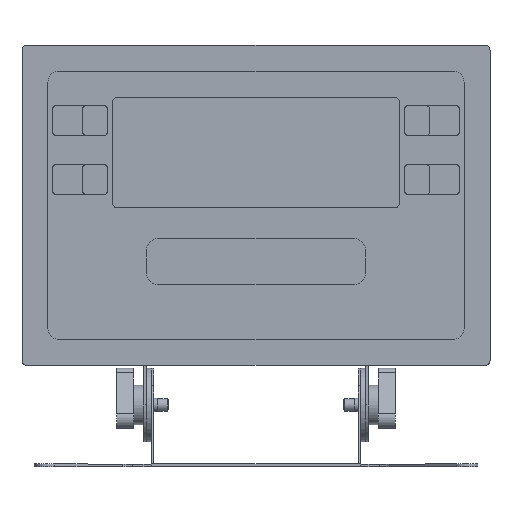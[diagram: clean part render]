
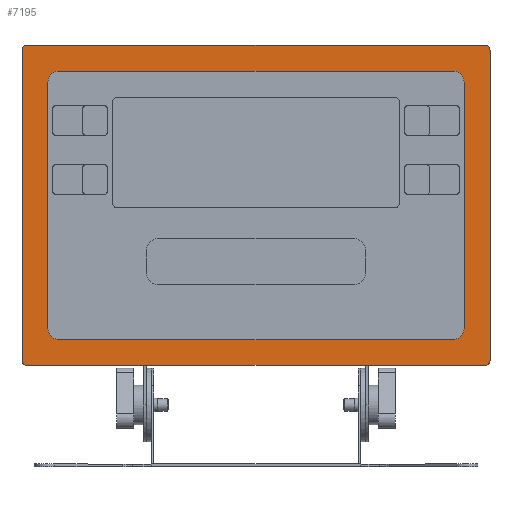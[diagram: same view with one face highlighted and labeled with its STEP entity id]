
A CAD part, top view. The second image highlights one B-rep face of the part: STEP entity #7195.
In plain terms, the highlighted planar face has unit normal (0, 0, 1).
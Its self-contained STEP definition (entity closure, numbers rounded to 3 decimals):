
#446=LINE('',#10347,#926);
#449=LINE('',#10355,#929);
#452=LINE('',#10363,#932);
#455=LINE('',#10371,#935);
#457=LINE('',#10380,#937);
#458=LINE('',#10384,#938);
#459=LINE('',#10388,#939);
#460=LINE('',#10392,#940);
#926=VECTOR('',#8809,1000.);
#929=VECTOR('',#8818,1000.);
#932=VECTOR('',#8827,1000.);
#935=VECTOR('',#8836,1000.);
#937=VECTOR('',#8846,1000.);
#938=VECTOR('',#8849,1000.);
#939=VECTOR('',#8852,1000.);
#940=VECTOR('',#8855,1000.);
#1998=ORIENTED_EDGE('',*,*,#2981,.F.);
#1999=ORIENTED_EDGE('',*,*,#2979,.F.);
#2000=ORIENTED_EDGE('',*,*,#2977,.F.);
#2001=ORIENTED_EDGE('',*,*,#2975,.F.);
#2002=ORIENTED_EDGE('',*,*,#2973,.F.);
#2003=ORIENTED_EDGE('',*,*,#2971,.F.);
#2004=ORIENTED_EDGE('',*,*,#2969,.F.);
#2005=ORIENTED_EDGE('',*,*,#2967,.F.);
#2006=ORIENTED_EDGE('',*,*,#2982,.T.);
#2007=ORIENTED_EDGE('',*,*,#2983,.T.);
#2008=ORIENTED_EDGE('',*,*,#2984,.T.);
#2009=ORIENTED_EDGE('',*,*,#2985,.T.);
#2010=ORIENTED_EDGE('',*,*,#2986,.T.);
#2011=ORIENTED_EDGE('',*,*,#2987,.T.);
#2012=ORIENTED_EDGE('',*,*,#2988,.T.);
#2013=ORIENTED_EDGE('',*,*,#2989,.T.);
#2967=EDGE_CURVE('',#3544,#3545,#446,.T.);
#2969=EDGE_CURVE('',#3545,#3546,#3854,.T.);
#2971=EDGE_CURVE('',#3546,#3547,#449,.T.);
#2973=EDGE_CURVE('',#3547,#3548,#3855,.T.);
#2975=EDGE_CURVE('',#3548,#3549,#452,.T.);
#2977=EDGE_CURVE('',#3549,#3550,#3856,.T.);
#2979=EDGE_CURVE('',#3550,#3551,#455,.T.);
#2981=EDGE_CURVE('',#3551,#3544,#3857,.T.);
#2982=EDGE_CURVE('',#3552,#3553,#3858,.T.);
#2983=EDGE_CURVE('',#3553,#3554,#457,.T.);
#2984=EDGE_CURVE('',#3554,#3555,#3859,.T.);
#2985=EDGE_CURVE('',#3555,#3556,#458,.T.);
#2986=EDGE_CURVE('',#3556,#3557,#3860,.T.);
#2987=EDGE_CURVE('',#3557,#3558,#459,.T.);
#2988=EDGE_CURVE('',#3558,#3559,#3861,.T.);
#2989=EDGE_CURVE('',#3559,#3552,#460,.T.);
#3544=VERTEX_POINT('',#10346);
#3545=VERTEX_POINT('',#10348);
#3546=VERTEX_POINT('',#10352);
#3547=VERTEX_POINT('',#10356);
#3548=VERTEX_POINT('',#10360);
#3549=VERTEX_POINT('',#10364);
#3550=VERTEX_POINT('',#10368);
#3551=VERTEX_POINT('',#10372);
#3552=VERTEX_POINT('',#10378);
#3553=VERTEX_POINT('',#10379);
#3554=VERTEX_POINT('',#10381);
#3555=VERTEX_POINT('',#10383);
#3556=VERTEX_POINT('',#10385);
#3557=VERTEX_POINT('',#10387);
#3558=VERTEX_POINT('',#10389);
#3559=VERTEX_POINT('',#10391);
#3854=CIRCLE('',#7654,4.5);
#3855=CIRCLE('',#7657,4.5);
#3856=CIRCLE('',#7660,4.5);
#3857=CIRCLE('',#7663,4.5);
#3858=CIRCLE('',#7665,2.);
#3859=CIRCLE('',#7666,2.);
#3860=CIRCLE('',#7667,2.);
#3861=CIRCLE('',#7668,2.);
#4161=EDGE_LOOP('',(#1998,#1999,#2000,#2001,#2002,#2003,#2004,#2005));
#4162=EDGE_LOOP('',(#2006,#2007,#2008,#2009,#2010,#2011,#2012,#2013));
#4561=FACE_BOUND('',#4161,.T.);
#4562=FACE_BOUND('',#4162,.T.);
#4826=PLANE('',#7664);
#7195=ADVANCED_FACE('',(#4561,#4562),#4826,.T.);
#7654=AXIS2_PLACEMENT_3D('',#10351,#8813,#8814);
#7657=AXIS2_PLACEMENT_3D('',#10359,#8822,#8823);
#7660=AXIS2_PLACEMENT_3D('',#10367,#8831,#8832);
#7663=AXIS2_PLACEMENT_3D('',#10375,#8840,#8841);
#7664=AXIS2_PLACEMENT_3D('',#10376,#8842,#8843);
#7665=AXIS2_PLACEMENT_3D('',#10377,#8844,#8845);
#7666=AXIS2_PLACEMENT_3D('',#10382,#8847,#8848);
#7667=AXIS2_PLACEMENT_3D('',#10386,#8850,#8851);
#7668=AXIS2_PLACEMENT_3D('',#10390,#8853,#8854);
#8809=DIRECTION('',(0.,-1.,0.));
#8813=DIRECTION('',(0.,0.,1.));
#8814=DIRECTION('',(1.,0.,0.));
#8818=DIRECTION('',(1.,0.,0.));
#8822=DIRECTION('',(0.,0.,1.));
#8823=DIRECTION('',(1.,0.,0.));
#8827=DIRECTION('',(0.,1.,0.));
#8831=DIRECTION('',(0.,0.,1.));
#8832=DIRECTION('',(1.,0.,0.));
#8836=DIRECTION('',(-1.,0.,0.));
#8840=DIRECTION('',(0.,0.,1.));
#8841=DIRECTION('',(1.,0.,0.));
#8842=DIRECTION('',(0.,0.,1.));
#8843=DIRECTION('',(1.,0.,0.));
#8844=DIRECTION('',(0.,0.,1.));
#8845=DIRECTION('',(1.,0.,0.));
#8846=DIRECTION('',(0.,-1.,0.));
#8847=DIRECTION('',(0.,0.,1.));
#8848=DIRECTION('',(1.,0.,0.));
#8849=DIRECTION('',(1.,0.,0.));
#8850=DIRECTION('',(0.,0.,1.));
#8851=DIRECTION('',(1.,0.,0.));
#8852=DIRECTION('',(0.,1.,0.));
#8853=DIRECTION('',(0.,0.,1.));
#8854=DIRECTION('',(1.,0.,0.));
#8855=DIRECTION('',(-1.,0.,0.));
#10346=CARTESIAN_POINT('',(-84.5,50.,23.));
#10347=CARTESIAN_POINT('',(-84.5,50.,23.));
#10348=CARTESIAN_POINT('',(-84.5,-50.,23.));
#10351=CARTESIAN_POINT('',(-80.,-50.,23.));
#10352=CARTESIAN_POINT('',(-80.,-54.5,23.));
#10355=CARTESIAN_POINT('',(-80.,-54.5,23.));
#10356=CARTESIAN_POINT('',(80.,-54.5,23.));
#10359=CARTESIAN_POINT('',(80.,-50.,23.));
#10360=CARTESIAN_POINT('',(84.5,-50.,23.));
#10363=CARTESIAN_POINT('',(84.5,-50.,23.));
#10364=CARTESIAN_POINT('',(84.5,50.,23.));
#10367=CARTESIAN_POINT('',(80.,50.,23.));
#10368=CARTESIAN_POINT('',(80.,54.5,23.));
#10371=CARTESIAN_POINT('',(80.,54.5,23.));
#10372=CARTESIAN_POINT('',(-80.,54.5,23.));
#10375=CARTESIAN_POINT('',(-80.,50.,23.));
#10376=CARTESIAN_POINT('',(-93.,63.,23.));
#10377=CARTESIAN_POINT('',(-93.,63.,23.));
#10378=CARTESIAN_POINT('',(-93.,65.,23.));
#10379=CARTESIAN_POINT('',(-95.,63.,23.));
#10380=CARTESIAN_POINT('',(-95.,63.,23.));
#10381=CARTESIAN_POINT('',(-95.,-63.,23.));
#10382=CARTESIAN_POINT('',(-93.,-63.,23.));
#10383=CARTESIAN_POINT('',(-93.,-65.,23.));
#10384=CARTESIAN_POINT('',(-93.,-65.,23.));
#10385=CARTESIAN_POINT('',(93.,-65.,23.));
#10386=CARTESIAN_POINT('',(93.,-63.,23.));
#10387=CARTESIAN_POINT('',(95.,-63.,23.));
#10388=CARTESIAN_POINT('',(95.,-63.,23.));
#10389=CARTESIAN_POINT('',(95.,63.,23.));
#10390=CARTESIAN_POINT('',(93.,63.,23.));
#10391=CARTESIAN_POINT('',(93.,65.,23.));
#10392=CARTESIAN_POINT('',(93.,65.,23.));
